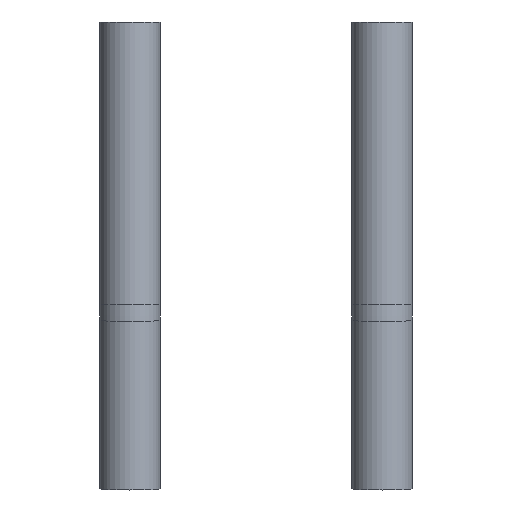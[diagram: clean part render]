
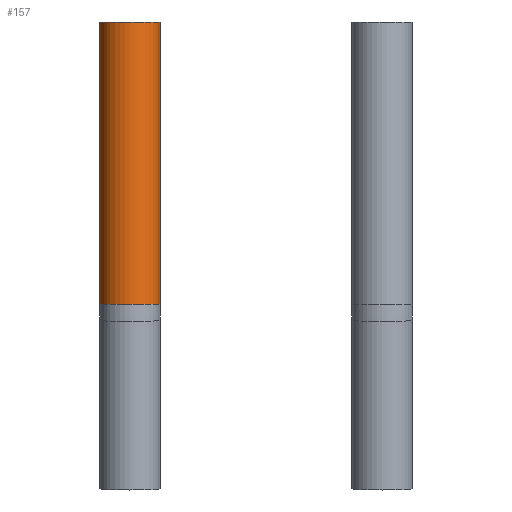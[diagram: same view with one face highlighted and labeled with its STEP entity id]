
A CAD part, top view. The second image highlights one B-rep face of the part: STEP entity #157.
In plain terms, the highlighted cylindrical face has radius 0.24 mm (diameter 0.48 mm), a full revolution.
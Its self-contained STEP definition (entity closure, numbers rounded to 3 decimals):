
#65 = TOROIDAL_SURFACE('',#66,3.,0.24);
#66 = AXIS2_PLACEMENT_3D('',#67,#68,#69);
#67 = CARTESIAN_POINT('',(21.,-8.036,-10.24));
#68 = DIRECTION('',(-1.,0.,0.));
#69 = DIRECTION('',(0.,-0.043,0.999));
#108 = VERTEX_POINT('',#109);
#109 = CARTESIAN_POINT('',(21.,-8.036,-7.));
#130 = EDGE_CURVE('',#108,#108,#131,.T.);
#131 = SURFACE_CURVE('',#132,(#137,#144),.PCURVE_S1.);
#132 = CIRCLE('',#133,0.24);
#133 = AXIS2_PLACEMENT_3D('',#134,#135,#136);
#134 = CARTESIAN_POINT('',(21.,-8.036,-7.24));
#135 = DIRECTION('',(-0.,-1.,0.));
#136 = DIRECTION('',(0.,0.,1.));
#137 = PCURVE('',#65,#138);
#138 = DEFINITIONAL_REPRESENTATION('',(#139),#143);
#139 = LINE('',#140,#141);
#140 = CARTESIAN_POINT('',(0.043,0.));
#141 = VECTOR('',#142,1.);
#142 = DIRECTION('',(0.,1.));
#143 = ( GEOMETRIC_REPRESENTATION_CONTEXT(2) 
PARAMETRIC_REPRESENTATION_CONTEXT() REPRESENTATION_CONTEXT('2D SPACE',''
  ) );
#144 = PCURVE('',#145,#150);
#145 = CYLINDRICAL_SURFACE('',#146,0.24);
#146 = AXIS2_PLACEMENT_3D('',#147,#148,#149);
#147 = CARTESIAN_POINT('',(21.,-8.036,-7.24));
#148 = DIRECTION('',(0.,1.,0.));
#149 = DIRECTION('',(0.,-0.,1.));
#150 = DEFINITIONAL_REPRESENTATION('',(#151),#154);
#151 = B_SPLINE_CURVE_WITH_KNOTS('',1,(#152,#153),.UNSPECIFIED.,.F.,.F.,
  (2,2),(0.,6.283),.PIECEWISE_BEZIER_KNOTS.);
#152 = CARTESIAN_POINT('',(6.283,0.));
#153 = CARTESIAN_POINT('',(0.,0.));
#154 = ( GEOMETRIC_REPRESENTATION_CONTEXT(2) 
PARAMETRIC_REPRESENTATION_CONTEXT() REPRESENTATION_CONTEXT('2D SPACE',''
  ) );
#157 = ADVANCED_FACE('',(#158),#145,.T.);
#158 = FACE_BOUND('',#159,.T.);
#159 = EDGE_LOOP('',(#160,#182,#209,#210));
#160 = ORIENTED_EDGE('',*,*,#161,.T.);
#161 = EDGE_CURVE('',#108,#162,#164,.T.);
#162 = VERTEX_POINT('',#163);
#163 = CARTESIAN_POINT('',(21.,-5.8,-7.));
#164 = SEAM_CURVE('',#165,(#169,#175),.PCURVE_S1.);
#165 = LINE('',#166,#167);
#166 = CARTESIAN_POINT('',(21.,-8.036,-7.));
#167 = VECTOR('',#168,1.);
#168 = DIRECTION('',(0.,1.,0.));
#169 = PCURVE('',#145,#170);
#170 = DEFINITIONAL_REPRESENTATION('',(#171),#174);
#171 = B_SPLINE_CURVE_WITH_KNOTS('',1,(#172,#173),.UNSPECIFIED.,.F.,.F.,
  (2,2),(0.,2.236),.PIECEWISE_BEZIER_KNOTS.);
#172 = CARTESIAN_POINT('',(6.283,0.));
#173 = CARTESIAN_POINT('',(6.283,2.236));
#174 = ( GEOMETRIC_REPRESENTATION_CONTEXT(2) 
PARAMETRIC_REPRESENTATION_CONTEXT() REPRESENTATION_CONTEXT('2D SPACE',''
  ) );
#175 = PCURVE('',#145,#176);
#176 = DEFINITIONAL_REPRESENTATION('',(#177),#181);
#177 = LINE('',#178,#179);
#178 = CARTESIAN_POINT('',(0.,0.));
#179 = VECTOR('',#180,1.);
#180 = DIRECTION('',(0.,1.));
#181 = ( GEOMETRIC_REPRESENTATION_CONTEXT(2) 
PARAMETRIC_REPRESENTATION_CONTEXT() REPRESENTATION_CONTEXT('2D SPACE',''
  ) );
#182 = ORIENTED_EDGE('',*,*,#183,.F.);
#183 = EDGE_CURVE('',#162,#162,#184,.T.);
#184 = SURFACE_CURVE('',#185,(#190,#197),.PCURVE_S1.);
#185 = CIRCLE('',#186,0.24);
#186 = AXIS2_PLACEMENT_3D('',#187,#188,#189);
#187 = CARTESIAN_POINT('',(21.,-5.8,-7.24));
#188 = DIRECTION('',(0.,1.,0.));
#189 = DIRECTION('',(0.,-0.,1.));
#190 = PCURVE('',#145,#191);
#191 = DEFINITIONAL_REPRESENTATION('',(#192),#196);
#192 = LINE('',#193,#194);
#193 = CARTESIAN_POINT('',(0.,2.236));
#194 = VECTOR('',#195,1.);
#195 = DIRECTION('',(1.,0.));
#196 = ( GEOMETRIC_REPRESENTATION_CONTEXT(2) 
PARAMETRIC_REPRESENTATION_CONTEXT() REPRESENTATION_CONTEXT('2D SPACE',''
  ) );
#197 = PCURVE('',#198,#203);
#198 = PLANE('',#199);
#199 = AXIS2_PLACEMENT_3D('',#200,#201,#202);
#200 = CARTESIAN_POINT('',(21.,-5.8,-7.24));
#201 = DIRECTION('',(0.,1.,0.));
#202 = DIRECTION('',(0.,-0.,1.));
#203 = DEFINITIONAL_REPRESENTATION('',(#204),#208);
#204 = CIRCLE('',#205,0.24);
#205 = AXIS2_PLACEMENT_2D('',#206,#207);
#206 = CARTESIAN_POINT('',(0.,0.));
#207 = DIRECTION('',(1.,0.));
#208 = ( GEOMETRIC_REPRESENTATION_CONTEXT(2) 
PARAMETRIC_REPRESENTATION_CONTEXT() REPRESENTATION_CONTEXT('2D SPACE',''
  ) );
#209 = ORIENTED_EDGE('',*,*,#161,.F.);
#210 = ORIENTED_EDGE('',*,*,#130,.F.);
